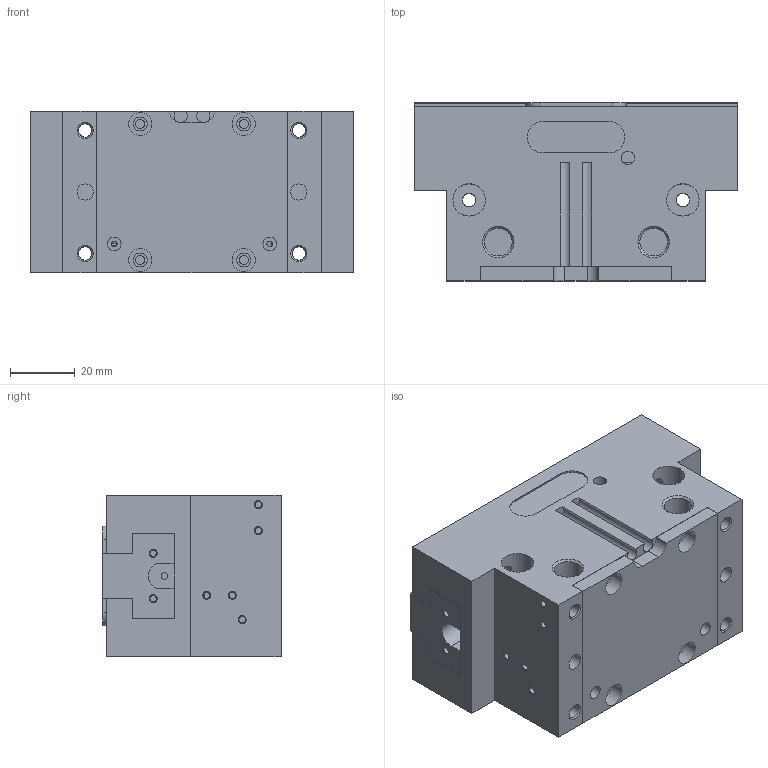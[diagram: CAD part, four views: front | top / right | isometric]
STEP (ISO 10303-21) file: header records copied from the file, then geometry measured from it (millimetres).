
FILE_DESCRIPTION( ( 'STEP AP214' ), '1' );
FILE_NAME( 'C:/Users/ashearer/Desktop/Mindman New CAD/Grippers/MCHS-SD-100_0_.stp', ' ', ( ' ' ), ( ' ' ), 'PSStep 15.0.47', 'PARTsolutions', ' ' );
FILE_SCHEMA( ( 'AUTOMOTIVE_DESIGN { 1 0 10303 214 1 1 1 1 }' ) );
Length unit declared in the file: millimetre
Products named in the file (4): MCHS-SD-100(0); _MCHS-SD-100(dummy_0); _MCHS-SD-100_body; _MCHS-SD-100_finger
Assembly tree (4 placements, depth 2):
  MCHS-SD-100(0)
    _MCHS-SD-100(dummy_0)
    _MCHS-SD-100_body
    _MCHS-SD-100_finger  x2
Bounding box: 100 x 55 x 50 mm (x, y, z)
Volume: 216429.2 mm3; surface area: 56240.3 mm2
Topology: 3 solids, 3 shells, 369 faces, 879 edges, 563 vertices
Faces by surface type: plane 209, cylinder 99, cone 61
Full cylindrical faces by diameter (mm): 1.713 x2, 2.013 x20, 2.5 x4, 2.85 x4, 4.134 x14, 4.2 x2, 4.3 x4, 4.917 x4, 5 x4, 7.2 x4, 8 x4, 8.566 x4, 10 x6
Entity records: 10507 total; most frequent: CARTESIAN_POINT 1750, DIRECTION 1341, ORIENTED_EDGE 1098, EDGE_CURVE 549, AXIS2_PLACEMENT_3D 521, EDGE_LOOP 494, VERTEX_POINT 419, FACE_OUTER_BOUND 359
